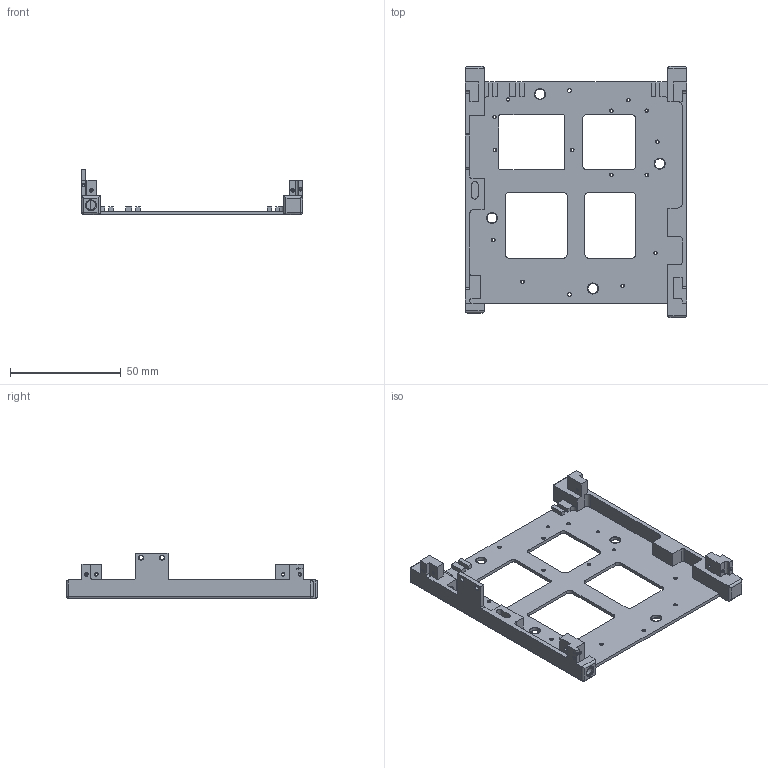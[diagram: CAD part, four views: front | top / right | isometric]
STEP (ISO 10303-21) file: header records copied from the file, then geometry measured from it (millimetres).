
FILE_DESCRIPTION((''),'2;1');
FILE_NAME('ANTTENA_SIDE_NEXUS_3','2020-03-13T',('g0715'),(''),'PRO/ENGINEER BY PARAMETRIC TECHNOLOGY CORPORATION, 2014090','PRO/ENGINEER BY PARAMETRIC TECHNOLOGY CORPORATION, 2014090','');
FILE_SCHEMA(('CONFIG_CONTROL_DESIGN'));
Length unit declared in the file: millimetre
Products named in the file (1): ANTTENA_SIDE_NEXUS_3
Bounding box: 100 x 113.5 x 20.5 mm (x, y, z)
Volume: 19548.9 mm3; surface area: 22521.4 mm2
Topology: 1 solids, 36 shells, 362 faces, 1025 edges, 670 vertices
Faces by surface type: cylinder 214, plane 125, cone 19, sphere 4
Entity records: 12006 total; most frequent: CARTESIAN_POINT 2253, DIRECTION 2134, ORIENTED_EDGE 1874, EDGE_CURVE 1007, AXIS2_PLACEMENT_3D 793, VERTEX_POINT 670, VECTOR 548, LINE 548
